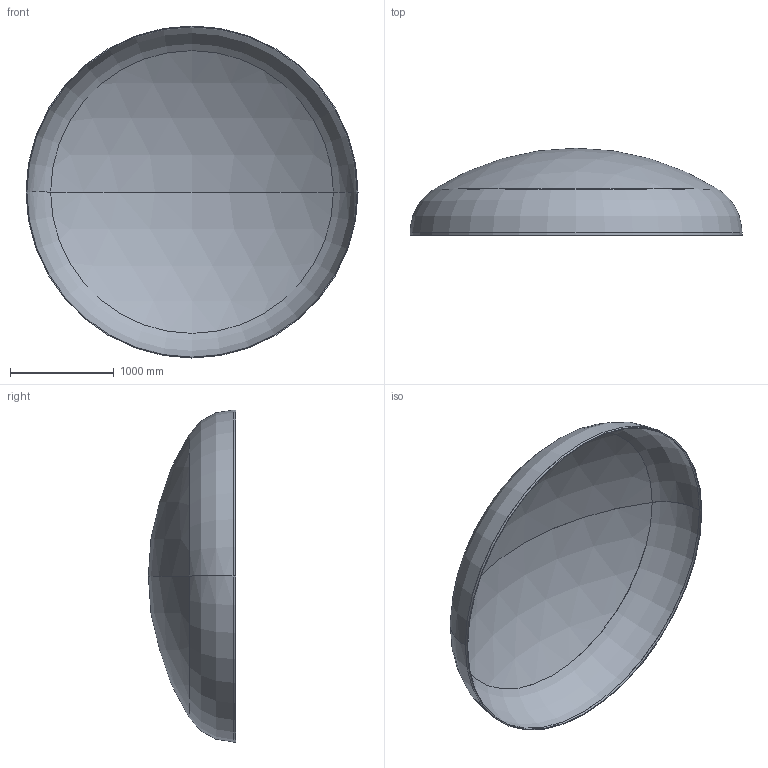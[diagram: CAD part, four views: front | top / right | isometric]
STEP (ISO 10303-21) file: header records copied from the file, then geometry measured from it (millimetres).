
FILE_DESCRIPTION (( 'STEP AP203' ), '1' );
FILE_NAME ('DIN 28013 Korbbogenform_-_Boden DIN 28013 - 3200 x 25 - I - s=8.step', '2016-07-01T18:16:41', ( '' ), ( '' ), 'SwSTEP 2.0', 'SolidWorks 2013', '' );
FILE_SCHEMA (( 'CONFIG_CONTROL_DESIGN' ));
Length unit declared in the file: millimetre
Products named in the file (1): DIN 28013 Korbbogenform_-_Boden DIN 28013 - 3200 x 25 - I - s=8
Bounding box: 3200 x 840.72 x 3200 mm (x, y, z)
Volume: 90730449.7 mm3; surface area: 22762960.8 mm2
Topology: 1 solids, 1 shells, 13 faces, 24 edges, 14 vertices
Faces by surface type: torus 4, cylinder 4, sphere 4, plane 1
Entity records: 407 total; most frequent: DIRECTION 72, CARTESIAN_POINT 52, ORIENTED_EDGE 48, AXIS2_PLACEMENT_3D 34, EDGE_CURVE 24, CIRCLE 20, VERTEX_POINT 14, EDGE_LOOP 14
